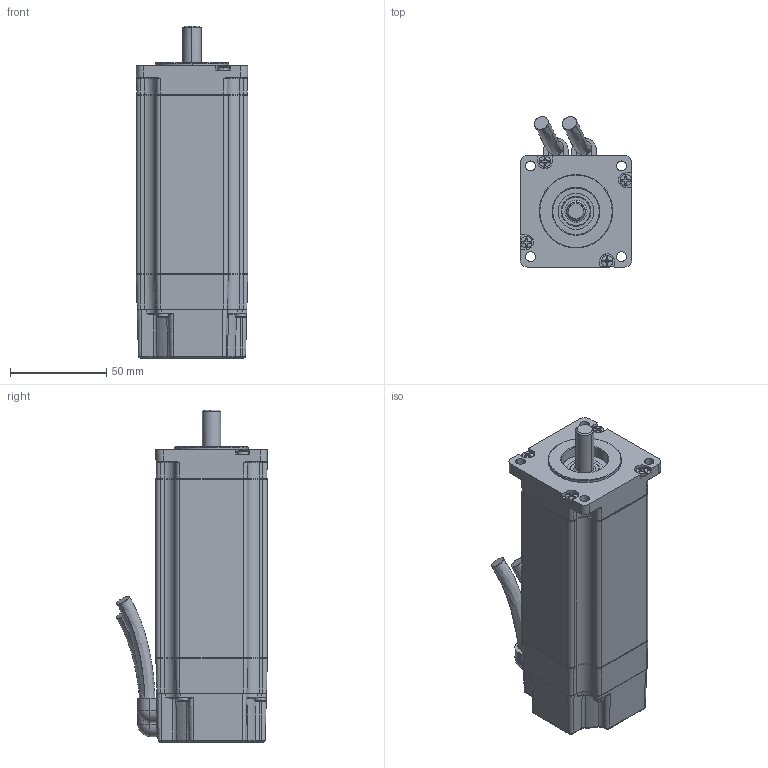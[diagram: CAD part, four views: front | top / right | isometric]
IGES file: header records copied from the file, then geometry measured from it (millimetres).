
Start section:  PTC IGES file: vlm23b.igs
Global section: file name: vlm23b.igs; native system: Pro/ENGINEER by Parametric Technology Corporation; preprocessor: 2006510; author: Ray.Dobbins; organization: Unknown; date: 20110715.124250; units: inch
Bounding box: 57.91 x 78.26 x 172.35 mm (x, y, z)
Surface area: 156113.3 mm2 (no closed solid volume)
Topology: 0 solids, 0 shells, 1722 faces, 9220 edges, 9210 vertices
Faces by surface type: revolution 1041, bspline 681
